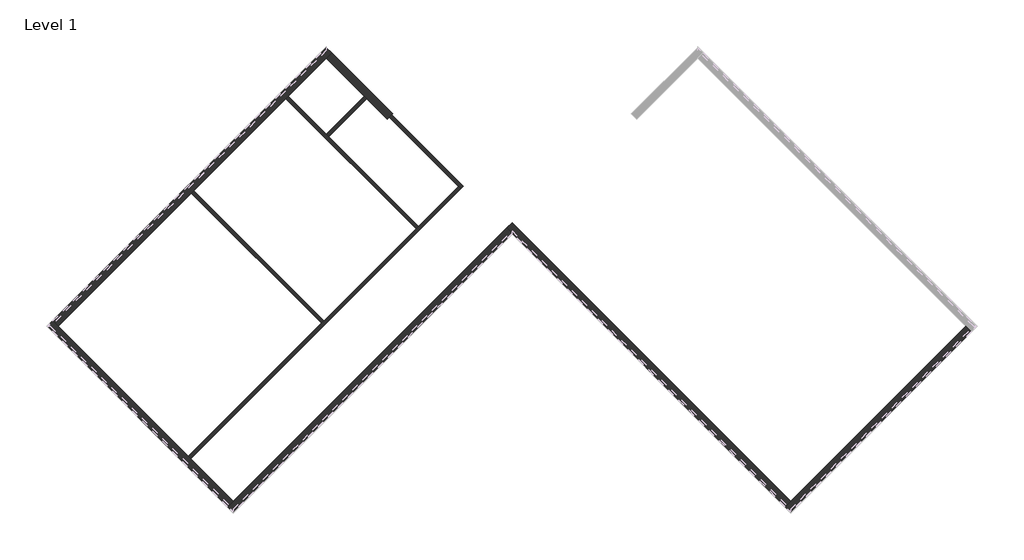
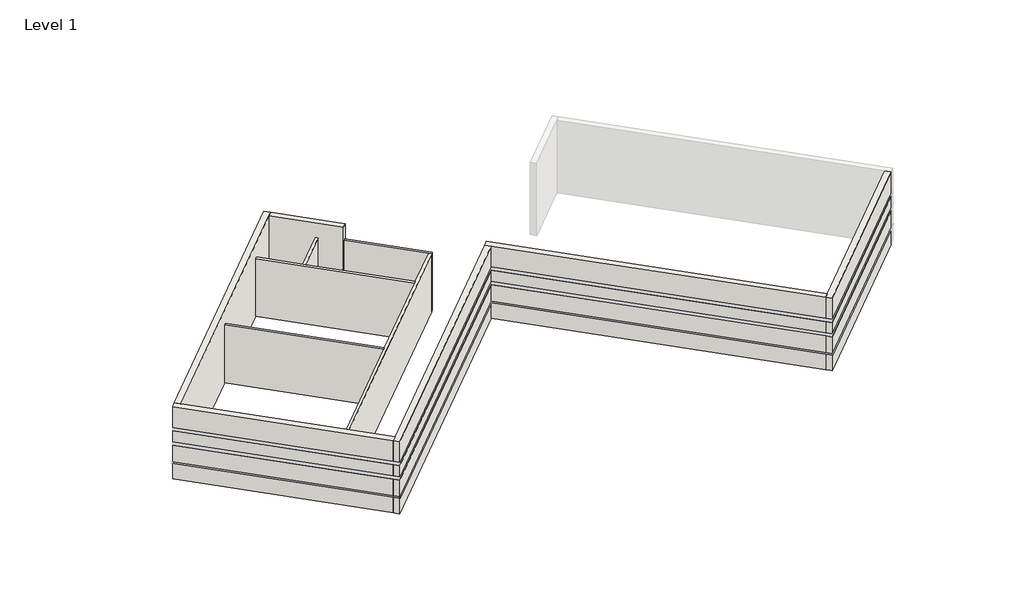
# One storey, part 1 of 2: 11 walls.
"""IFC4 building model written with IfcOpenShell, lengths in millimetres."""

import ifcopenshell
import ifcopenshell.guid

model = None  # the IFC model being written
_history = None  # IfcOwnerHistory: only IFC2X3 demands one
_inside = {}  # id of a spatial element -> (the spatial element, [elements in it])
_under = {}  # id of a project, library or spatial element -> (it, [spatial elements below it])
_declared = {}  # id of a project -> (the project, [libraries it declares])
_typed = {}  # id of a type object -> (the type object, [elements of that type])
_made_of = {}  # id of a material, layer set ... -> (it, [elements and type objects made of it])


def new_model(schema):
    """Start an empty IFC model of exactly this schema.

    Asked for "IFC4X3", IfcOpenShell would pick the latest addendum, in which some entities
    have other attributes; the version numbers below select the first issue.
    IFC2X3 requires an IfcOwnerHistory on every rooted entity: one is made here for all.
    """
    global model, _history
    if schema == "IFC4X3":
        model = ifcopenshell.file(schema_version=(4, 3, 0, 0))
    else:
        model = ifcopenshell.file(schema=schema)
    _inside.clear()
    _under.clear()
    _declared.clear()
    _typed.clear()
    _made_of.clear()
    _history = None
    if model.schema == "IFC2X3":
        org = make("IfcOrganization", Name="unknown")
        user = make(
            "IfcPersonAndOrganization",
            ThePerson=make("IfcPerson", FamilyName="unknown"),
            TheOrganization=org,
        )
        app = make(
            "IfcApplication",
            ApplicationDeveloper=org,
            Version="unknown",
            ApplicationFullName="unknown",
            ApplicationIdentifier="unknown",
        )
        _history = make(
            "IfcOwnerHistory",
            OwningUser=user,
            OwningApplication=app,
            ChangeAction="ADDED",
            CreationDate=0,
        )
    return model


def make(cls, **values):
    """One entity of the class cls with the attributes given. An attribute that is None is left unset."""
    return model.create_entity(
        cls, **{name: value for name, value in values.items() if value is not None}
    )


def rooted(cls, **values):
    """An entity with a GlobalId (a new one), such as an element, a storey or a relation."""
    return make(cls, GlobalId=ifcopenshell.guid.new(), OwnerHistory=_history, **values)


def si_unit(unit_type, name, prefix=None):
    """IfcSIUnit, for example si_unit("LENGTHUNIT", "METRE", prefix="MILLI")."""
    return make("IfcSIUnit", UnitType=unit_type, Prefix=prefix, Name=name)


def assignment(units):
    """IfcUnitAssignment: the units of a project."""
    return None if units is None else make("IfcUnitAssignment", Units=units)


def point(xyz):
    """IfcCartesianPoint."""
    return None if xyz is None else make("IfcCartesianPoint", Coordinates=xyz)


def direction(xyz):
    """IfcDirection."""
    return None if xyz is None else make("IfcDirection", DirectionRatios=xyz)


def frame(location, z_axis=None, x_axis=None):
    """IfcAxis2Placement3D, a coordinate frame: its origin and axes. An axis left out is left unset."""
    return make(
        "IfcAxis2Placement3D",
        Location=point(location),
        Axis=direction(z_axis),
        RefDirection=direction(x_axis),
    )


def origin():
    """The frame at (0, 0, 0) with its axes left unset."""
    return frame((0.0, 0.0, 0.0))


def origin_with_axes():
    """The frame at (0, 0, 0) with the z axis (0, 0, 1) and the x axis (1, 0, 0) written out."""
    return frame((0.0, 0.0, 0.0), z_axis=(0.0, 0.0, 1.0), x_axis=(1.0, 0.0, 0.0))


def place(relative_to, where):
    """IfcLocalPlacement: puts the frame where relative to a parent placement (None: the world)."""
    return make(
        "IfcLocalPlacement", PlacementRelTo=relative_to, RelativePlacement=where
    )


def context(
    kind, dimensions, precision=None, world=None, true_north=None, identifier=None
):
    """IfcGeometricRepresentationContext, for example the 3D "Model" context."""
    return make(
        "IfcGeometricRepresentationContext",
        ContextIdentifier=identifier,
        ContextType=kind,
        CoordinateSpaceDimension=dimensions,
        Precision=precision,
        WorldCoordinateSystem=world,
        TrueNorth=true_north,
    )


def project(units=None, contexts=None):
    """IfcProject with its units and contexts."""
    return rooted(
        "IfcProject",
        Name="project",
        RepresentationContexts=contexts,
        UnitsInContext=assignment(units),
    )


def spatial(cls, under=None, at=None, **own):
    """A site, building, storey or space (cls), placed at a placement, below another one or the project."""
    s = rooted(cls, ObjectPlacement=at, **own)
    if under is not None:
        _under.setdefault(under.id(), (under, []))[1].append(s)
    return s


def polyline(points):
    """IfcPolyline through the points."""
    return make("IfcPolyline", Points=[point(p) for p in points])


def circle_curve(where, radius):
    """IfcCircle in the frame where."""
    return make("IfcCircle", Position=where, Radius=radius)


def outline(outer, holes=None, kind="AREA"):
    """IfcArbitraryClosedProfileDef: a profile drawn as a closed curve; with holes, ...WithVoids."""
    if holes is None:
        return make("IfcArbitraryClosedProfileDef", ProfileType=kind, OuterCurve=outer)
    return make(
        "IfcArbitraryProfileDefWithVoids",
        ProfileType=kind,
        OuterCurve=outer,
        InnerCurves=holes,
    )


def extrude(swept, where, along, depth):
    """IfcExtrudedAreaSolid: the profile swept, set in the frame where, extruded along a direction by depth."""
    return make(
        "IfcExtrudedAreaSolid",
        SweptArea=swept,
        Position=where,
        ExtrudedDirection=direction(along),
        Depth=depth,
    )


def faces_of(points, faces, orient=None, outer=None):
    """IfcFace entities. A face is a list of loops; a loop is a list of indices into points, from 0.

    orient and outer hold one flag for each loop. By default every Orientation is true, the
    first loop of a face is its IfcFaceOuterBound and the others are IfcFaceBound.
    """
    made = []
    for i, loops in enumerate(faces):
        bounds = []
        for j, loop in enumerate(loops):
            is_outer = j == 0 if outer is None else outer[i][j]
            bounds.append(
                make(
                    "IfcFaceOuterBound" if is_outer else "IfcFaceBound",
                    Bound=make("IfcPolyLoop", Polygon=[points[k] for k in loop]),
                    Orientation=True if orient is None else orient[i][j],
                )
            )
        made.append(make("IfcFace", Bounds=bounds))
    return made


def faceted_brep(points, faces, orient=None, outer=None, voids=None):
    """IfcFacetedBrep: a solid bounded by flat faces; with voids (closed shells), ...WithVoids."""
    shared = [point(p) for p in points]
    hull = make("IfcClosedShell", CfsFaces=faces_of(shared, faces, orient, outer))
    if voids is None:
        return make("IfcFacetedBrep", Outer=hull)
    return make(
        "IfcFacetedBrepWithVoids",
        Outer=hull,
        Voids=[
            make(cls, CfsFaces=faces_of(shared, fs, o, b)) for cls, fs, o, b in voids
        ],
    )


def shape(context_of_items, identifier, shape_type, items):
    """IfcShapeRepresentation: the items that make up one representation, for example the "Body"."""
    return make(
        "IfcShapeRepresentation",
        ContextOfItems=context_of_items,
        RepresentationIdentifier=identifier,
        RepresentationType=shape_type,
        Items=items,
    )


def made_of(thing, what):
    """Note that an element or type object is made of a material, layer set ...; save() writes the relation."""
    if what is not None:
        _made_of.setdefault(what.id(), (what, []))[1].append(thing)
    return thing


def element(
    cls,
    number,
    at=None,
    inside=None,
    cuts=None,
    type_object=None,
    material=None,
    context=None,
    identifier="Body",
    shape_type=None,
    held_by="IfcProductDefinitionShape",
    body=None,
    shapes=None,
    **own,
):
    """One element of the class cls, such as IfcWall. Its Tag is "e" and its number.

    at: its placement. inside: the storey or other place that contains it. cuts: it is an
    opening in that element (IfcRelVoidsElement). A single representation is given by context,
    identifier, shape_type and body (its items); several are given by shapes. held_by: the class
    of the entity that holds the representations. save() writes the other relations.
    """
    e = rooted(cls, Tag="e%d" % number, ObjectPlacement=at, **own)
    if body is not None:
        shapes = [shape(context, identifier, shape_type, body)]
    if shapes is not None:
        e.Representation = make(held_by, Representations=shapes)
    if inside is not None:
        _inside.setdefault(inside.id(), (inside, []))[1].append(e)
    if cuts is not None:
        rooted(
            "IfcRelVoidsElement", RelatingBuildingElement=cuts, RelatedOpeningElement=e
        )
    if type_object is not None:
        _typed.setdefault(type_object.id(), (type_object, []))[1].append(e)
    return made_of(e, material)


def aggregate(whole, parts):
    """IfcRelAggregates: a whole, such as a stair, and the parts it consists of."""
    return rooted("IfcRelAggregates", RelatingObject=whole, RelatedObjects=parts)


def save(model, path):
    """Write the relations noted so far, then the file.

    IfcRelAggregates (storeys below a building ...), IfcRelContainedInSpatialStructure (elements
    in a storey), IfcRelDefinesByType, IfcRelAssociatesMaterial and IfcRelDeclares: one each for
    every whole, place, type object, material and project.
    """
    for whole, parts in _under.values():
        aggregate(whole, parts)
    for where, things in _inside.values():
        rooted(
            "IfcRelContainedInSpatialStructure",
            RelatedElements=things,
            RelatingStructure=where,
        )
    for kind, things in _typed.values():
        rooted("IfcRelDefinesByType", RelatedObjects=things, RelatingType=kind)
    for what, things in _made_of.values():
        rooted("IfcRelAssociatesMaterial", RelatedObjects=things, RelatingMaterial=what)
    for by, libraries in _declared.values():
        rooted("IfcRelDeclares", RelatingContext=by, RelatedDefinitions=libraries)
    model.write(path)


def plane_surface(at):
    """IfcPlane: the flat surface through the origin of the frame at, square to its z axis."""
    return make("IfcPlane", Position=at)


def cylinder_surface(at, radius):
    """IfcCylindricalSurface: all points at the distance radius from the z axis of the frame at."""
    return make("IfcCylindricalSurface", Position=at, Radius=radius)


def revolved_surface(curve, axis_point, axis_direction):
    """IfcSurfaceOfRevolution: the curve turned about the line through axis_point along axis_direction."""
    return make(
        "IfcSurfaceOfRevolution",
        SweptCurve=make("IfcArbitraryOpenProfileDef", ProfileType="CURVE", Curve=curve),
        AxisPosition=make("IfcAxis1Placement", Location=point(axis_point), Axis=direction(axis_direction)),
    )


def advanced_brep(points, edges, surfaces, faces):
    """IfcAdvancedBrep: a solid bounded by faces that lie on surfaces and meet in shared edges.

    An edge is (start, end): straight between two places in points (the first is 0);
    or (start, end, curve); or (start, end, curve, False) where it runs against its curve.
    A face is (place in surfaces, loops), or (place, loops, False) where it looks against
    its surface's normal. A loop lists edges by number (the first is 1), with a minus sign
    where the edge is run from its end to its start. The first loop is the outer one.
    """
    corners = [point(p) for p in points]
    vertices = [make("IfcVertexPoint", VertexGeometry=c) for c in corners]
    made = []
    for start, end, *more in edges:
        made.append(
            make(
                "IfcEdgeCurve",
                EdgeStart=vertices[start],
                EdgeEnd=vertices[end],
                EdgeGeometry=more[0] if more else make("IfcPolyline", Points=[corners[start], corners[end]]),
                SameSense=more[1] if len(more) > 1 else True,
            )
        )
    hull = []
    for where, loops, *sense in faces:
        bounds = []
        for j, loop in enumerate(loops):
            ring = [make("IfcOrientedEdge", EdgeElement=made[abs(k) - 1], Orientation=k > 0) for k in loop]
            bounds.append(
                make(
                    "IfcFaceOuterBound" if j == 0 else "IfcFaceBound",
                    Bound=make("IfcEdgeLoop", EdgeList=ring),
                    Orientation=True,
                )
            )
        hull.append(make("IfcAdvancedFace", Bounds=bounds, FaceSurface=surfaces[where], SameSense=sense[0] if sense else True))
    return make("IfcAdvancedBrep", Outer=make("IfcClosedShell", CfsFaces=hull))


model = new_model("IFC4")

# Units and contexts
model_context = context("Model", 3, world=origin())
ifc_project = project(units=[si_unit("LENGTHUNIT", "METRE", prefix="MILLI")], contexts=[model_context])

# Site, building, storey
site = spatial("IfcSite", under=ifc_project)
building = spatial("IfcBuilding", under=site)
storey = spatial("IfcBuildingStorey", under=building, Name="Level 1", Elevation=0.0)

# Walls
placement = place(None, origin())
element("IfcWall", 1, ObjectType="Exterior - Split Face and CMU on Mtl. Stud", at=placement, inside=storey, context=model_context, shape_type="Brep", body=[
    faceted_brep([(18186.1821115, -1357.9895101, 0.0), (10063.54045, -9480.6311716, 0.0), (9814.3383427, -9729.833279, 0.0), (9814.3383427, -9729.833279, 1016.0), (9879.4451996, -9664.7264221, 1016.0), (9879.4451996, -9664.7264221, 1085.85), (9814.3383427, -9729.833279, 1085.85), (9814.3383427, -9729.833279, 2133.6), (9879.4451996, -9664.7264221, 2133.6), (9879.4451996, -9664.7264221, 2336.8), (9814.3383427, -9729.833279, 2336.8), (9814.3383427, -9729.833279, 3048.0), (9879.4451996, -9664.7264221, 3048.0), (9879.4451996, -9664.7264221, 3251.2), (9814.3383427, -9729.833279, 3251.2), (9814.3383427, -9729.833279, 4572.0), (10063.54045, -9480.6311716, 4572.0), (18186.1821115, -1357.9895101, 4572.0), (18435.3842189, -1607.1916175, 4572.0), (10063.54045, -9979.0353863, 4572.0), (10063.54045, -9979.0353863, 3251.2), (18435.3842189, -1607.1916175, 3251.2), (10063.54045, -9979.0353863, 0.0), (18435.3842189, -1607.1916175, 0.0), (18435.3842189, -1607.1916175, 1016.0), (10063.54045, -9979.0353863, 1016.0), (10063.54045, -9979.0353863, 1085.85), (18435.3842189, -1607.1916175, 1085.85), (18435.3842189, -1607.1916175, 2133.6), (10063.54045, -9979.0353863, 2133.6), (10063.54045, -9979.0353863, 2336.8), (18435.3842189, -1607.1916175, 2336.8), (18435.3842189, -1607.1916175, 3048.0), (10063.54045, -9979.0353863, 3048.0), (9998.4335932, -9913.9285294, 0.0), (18370.277362, -1542.0847606, 3251.2), (18370.277362, -1542.0847606, 3048.0), (18370.277362, -1542.0847606, 2336.8), (18370.277362, -1542.0847606, 2133.6), (18370.277362, -1542.0847606, 1085.85), (18370.277362, -1542.0847606, 1016.0), (18370.277362, -1542.0847606, 0.0), (10063.54045, -9848.8216726, 1085.85), (10063.54045, -9848.8216726, 1016.0), (10063.54045, -9848.8216726, 2133.6), (10063.54045, -9848.8216726, 2336.8), (10063.54045, -9848.8216726, 3048.0), (10063.54045, -9848.8216726, 3251.2)], [[[0, 1, 2, 3, 4, 5, 6, 7, 8, 9, 10, 11, 12, 13, 14, 15, 16, 17]], [[18, 19, 20, 21]], [[22, 23, 24, 25]], [[26, 27, 28, 29]], [[30, 31, 32, 33]], [[17, 16, 15, 19, 18]], [[19, 15, 14, 20]], [[2, 34, 22, 25, 3]], [[6, 26, 29, 7]], [[10, 30, 33, 11]], [[0, 17, 18, 21, 35, 36, 32, 31, 37, 38, 28, 27, 39, 40, 24, 23, 41]], [[2, 1, 0, 41, 34]], [[41, 23, 22, 34]], [[5, 42, 39, 27, 26, 6]], [[40, 43, 4, 3, 25, 24]], [[42, 43, 40, 39]], [[43, 42, 5, 4]], [[38, 44, 8, 7, 29, 28]], [[9, 45, 37, 31, 30, 10]], [[45, 44, 38, 37]], [[44, 45, 9, 8]], [[36, 46, 12, 11, 33, 32]], [[13, 47, 35, 21, 20, 14]], [[47, 46, 36, 35]], [[46, 47, 13, 12]]]),
])
element("IfcWall", 2, ObjectType="Exterior - Split Face and CMU on Mtl. Stud", at=placement, inside=storey, context=model_context, shape_type="Brep", body=[
    faceted_brep([(10063.54045, -9480.6311716, 0.0), (-2868.0283643, 3450.9376427, 0.0), (-2868.0283643, 3450.9376427, 4572.0), (10063.54045, -9480.6311716, 4572.0), (9814.3383427, -9729.833279, 4572.0), (-2868.0283643, 2952.533428, 4572.0), (-3117.2304717, 3201.7355354, 4572.0), (-3117.2304717, 3201.7355354, 0.0), (-2868.0283643, 2952.533428, 0.0), (9814.3383427, -9729.833279, 0.0), (9814.3383427, -9729.833279, 1016.0), (-2868.0283643, 2952.533428, 1016.0), (-2933.1352212, 3017.6402849, 1016.0), (-2933.1352212, 3017.6402849, 1085.85), (-2868.0283643, 2952.533428, 1085.85), (9814.3383427, -9729.833279, 1085.85), (9814.3383427, -9729.833279, 2133.6), (-2868.0283643, 2952.533428, 2133.6), (-2933.1352212, 3017.6402849, 2133.6), (-2933.1352212, 3017.6402849, 2336.8), (-2868.0283643, 2952.533428, 2336.8), (9814.3383427, -9729.833279, 2336.8), (9814.3383427, -9729.833279, 3048.0), (-2868.0283643, 2952.533428, 3048.0), (-2933.1352212, 3017.6402849, 3048.0), (-2933.1352212, 3017.6402849, 3251.2), (-2868.0283643, 2952.533428, 3251.2), (9814.3383427, -9729.833279, 3251.2), (-3052.1236148, 3266.8423923, 0.0), (9879.4451996, -9664.7264221, 3251.2), (9879.4451996, -9664.7264221, 3048.0), (9879.4451996, -9664.7264221, 2336.8), (9879.4451996, -9664.7264221, 2133.6), (9879.4451996, -9664.7264221, 1085.85), (9879.4451996, -9664.7264221, 1016.0), (9879.4451996, -9664.7264221, 0.0), (-2868.0283643, 3082.7471418, 1085.85), (-2868.0283643, 3082.7471418, 1016.0), (-2868.0283643, 3082.7471418, 2133.6), (-2868.0283643, 3082.7471418, 2336.8), (-2868.0283643, 3082.7471418, 3048.0), (-2868.0283643, 3082.7471418, 3251.2)], [[[0, 1, 2, 3]], [[4, 5, 6, 7, 8, 9, 10, 11, 12, 13, 14, 15, 16, 17, 18, 19, 20, 21, 22, 23, 24, 25, 26, 27]], [[3, 2, 6, 5, 4]], [[2, 1, 28, 7, 6]], [[0, 3, 4, 27, 29, 30, 22, 21, 31, 32, 16, 15, 33, 34, 10, 9, 35]], [[1, 0, 35, 28]], [[35, 9, 8, 7, 28]], [[13, 36, 33, 15, 14]], [[34, 37, 12, 11, 10]], [[36, 37, 34, 33]], [[37, 36, 13, 12]], [[32, 38, 18, 17, 16]], [[19, 39, 31, 21, 20]], [[39, 38, 32, 31]], [[38, 39, 19, 18]], [[30, 40, 24, 23, 22]], [[25, 41, 29, 27, 26]], [[41, 40, 30, 29]], [[40, 41, 25, 24]]]),
])
element("IfcWall", 3, ObjectType="Exterior - Split Face and CMU on Mtl. Stud", at=placement, inside=storey, context=model_context, shape_type="Brep", body=[
    faceted_brep([(-3117.2304717, 3201.7355354, 0.0), (-15799.5971786, -9480.6311716, 0.0), (-16048.799286, -9729.833279, 0.0), (-16048.799286, -9729.833279, 1016.0), (-15983.6924291, -9664.7264221, 1016.0), (-15983.6924291, -9664.7264221, 1085.85), (-16048.799286, -9729.833279, 1085.85), (-16048.799286, -9729.833279, 2133.6), (-15983.6924291, -9664.7264221, 2133.6), (-15983.6924291, -9664.7264221, 2336.8), (-16048.799286, -9729.833279, 2336.8), (-16048.799286, -9729.833279, 3048.0), (-15983.6924291, -9664.7264221, 3048.0), (-15983.6924291, -9664.7264221, 3251.2), (-16048.799286, -9729.833279, 3251.2), (-16048.799286, -9729.833279, 4572.0), (-15799.5971786, -9480.6311716, 4572.0), (-3117.2304717, 3201.7355354, 4572.0), (-2868.0283643, 2952.533428, 4572.0), (-15799.5971786, -9979.0353863, 4572.0), (-15799.5971786, -9979.0353863, 3251.2), (-2868.0283643, 2952.533428, 3251.2), (-15799.5971786, -9979.0353863, 0.0), (-2868.0283643, 2952.533428, 0.0), (-2868.0283643, 2952.533428, 1016.0), (-15799.5971786, -9979.0353863, 1016.0), (-15799.5971786, -9979.0353863, 1085.85), (-2868.0283643, 2952.533428, 1085.85), (-2868.0283643, 2952.533428, 2133.6), (-15799.5971786, -9979.0353863, 2133.6), (-15799.5971786, -9979.0353863, 2336.8), (-2868.0283643, 2952.533428, 2336.8), (-2868.0283643, 2952.533428, 3048.0), (-15799.5971786, -9979.0353863, 3048.0), (-15864.7040355, -9913.9285294, 0.0), (-2933.1352212, 3017.6402849, 3251.2), (-2933.1352212, 3017.6402849, 3048.0), (-2933.1352212, 3017.6402849, 2336.8), (-2933.1352212, 3017.6402849, 2133.6), (-2933.1352212, 3017.6402849, 1085.85), (-2933.1352212, 3017.6402849, 1016.0), (-2933.1352212, 3017.6402849, 0.0), (-15799.5971786, -9848.8216726, 1085.85), (-15799.5971786, -9848.8216726, 1016.0), (-15799.5971786, -9848.8216726, 2133.6), (-15799.5971786, -9848.8216726, 2336.8), (-15799.5971786, -9848.8216726, 3048.0), (-15799.5971786, -9848.8216726, 3251.2)], [[[0, 1, 2, 3, 4, 5, 6, 7, 8, 9, 10, 11, 12, 13, 14, 15, 16, 17]], [[18, 19, 20, 21]], [[22, 23, 24, 25]], [[26, 27, 28, 29]], [[30, 31, 32, 33]], [[17, 16, 15, 19, 18]], [[19, 15, 14, 20]], [[2, 34, 22, 25, 3]], [[6, 26, 29, 7]], [[10, 30, 33, 11]], [[0, 17, 18, 21, 35, 36, 32, 31, 37, 38, 28, 27, 39, 40, 24, 23, 41]], [[2, 1, 0, 41, 34]], [[41, 23, 22, 34]], [[5, 42, 39, 27, 26, 6]], [[40, 43, 4, 3, 25, 24]], [[42, 43, 40, 39]], [[43, 42, 5, 4]], [[38, 44, 8, 7, 29, 28]], [[9, 45, 37, 31, 30, 10]], [[45, 44, 38, 37]], [[44, 45, 9, 8]], [[36, 46, 12, 11, 33, 32]], [[13, 47, 35, 21, 20, 14]], [[47, 46, 36, 35]], [[46, 47, 13, 12]]]),
])
element("IfcWall", 4, ObjectType="Exterior - Split Face and CMU on Mtl. Stud", at=placement, inside=storey, context=model_context, shape_type="Brep", body=[
    faceted_brep([(-15799.5971786, -9480.6311716, 0.0), (-17775.2535253, -7504.974825, 0.0), (-17885.2616628, -7394.9666875, 0.0), (-23922.2388402, -1357.9895101, 0.0), (-24171.4409475, -1108.7874027, 0.0), (-24171.4409475, -1108.7874027, 1016.0), (-24106.3340906, -1173.8942596, 1016.0), (-24106.3340906, -1173.8942596, 1085.85), (-24171.4409475, -1108.7874027, 1085.85), (-24171.4409475, -1108.7874027, 2133.6), (-24106.3340906, -1173.8942596, 2133.6), (-24106.3340906, -1173.8942596, 2336.8), (-24171.4409475, -1108.7874027, 2336.8), (-24171.4409475, -1108.7874027, 3048.0), (-24106.3340906, -1173.8942596, 3048.0), (-24106.3340906, -1173.8942596, 3251.2), (-24171.4409475, -1108.7874027, 3251.2), (-24171.4409475, -1108.7874027, 4572.0), (-23922.2388402, -1357.9895101, 4572.0), (-15799.5971786, -9480.6311716, 4572.0), (-16048.799286, -9729.833279, 4572.0), (-24420.6430549, -1357.9895101, 4572.0), (-24420.6430549, -1357.9895101, 3251.2), (-16048.799286, -9729.833279, 3251.2), (-24420.6430549, -1357.9895101, 0.0), (-16048.799286, -9729.833279, 0.0), (-16048.799286, -9729.833279, 1016.0), (-24420.6430549, -1357.9895101, 1016.0), (-24420.6430549, -1357.9895101, 1085.85), (-16048.799286, -9729.833279, 1085.85), (-16048.799286, -9729.833279, 2133.6), (-24420.6430549, -1357.9895101, 2133.6), (-24420.6430549, -1357.9895101, 2336.8), (-16048.799286, -9729.833279, 2336.8), (-16048.799286, -9729.833279, 3048.0), (-24420.6430549, -1357.9895101, 3048.0), (-24355.536198, -1292.8826532, 0.0), (-15983.6924291, -9664.7264221, 3251.2), (-15983.6924291, -9664.7264221, 3048.0), (-15983.6924291, -9664.7264221, 2336.8), (-15983.6924291, -9664.7264221, 2133.6), (-15983.6924291, -9664.7264221, 1085.85), (-15983.6924291, -9664.7264221, 1016.0), (-15983.6924291, -9664.7264221, 0.0), (-24290.4293411, -1357.9895101, 1085.85), (-24290.4293411, -1357.9895101, 1016.0), (-24290.4293411, -1357.9895101, 2133.6), (-24290.4293411, -1357.9895101, 2336.8), (-24290.4293411, -1357.9895101, 3048.0), (-24290.4293411, -1357.9895101, 3251.2)], [[[0, 1, 2, 3, 4, 5, 6, 7, 8, 9, 10, 11, 12, 13, 14, 15, 16, 17, 18, 19]], [[20, 21, 22, 23]], [[24, 25, 26, 27]], [[28, 29, 30, 31]], [[32, 33, 34, 35]], [[19, 18, 17, 21, 20]], [[21, 17, 16, 22]], [[4, 36, 24, 27, 5]], [[8, 28, 31, 9]], [[12, 32, 35, 13]], [[0, 19, 20, 23, 37, 38, 34, 33, 39, 40, 30, 29, 41, 42, 26, 25, 43]], [[4, 3, 2, 1, 0, 43, 36]], [[43, 25, 24, 36]], [[7, 44, 41, 29, 28, 8]], [[42, 45, 6, 5, 27, 26]], [[44, 45, 42, 41]], [[45, 44, 7, 6]], [[40, 46, 10, 9, 31, 30]], [[11, 47, 39, 33, 32, 12]], [[47, 46, 40, 39]], [[46, 47, 11, 10]], [[38, 48, 14, 13, 35, 34]], [[15, 49, 37, 23, 22, 16]], [[49, 48, 38, 37]], [[48, 49, 15, 14]]]),
])
element("IfcWall", 5, ObjectType="Exterior - Split Face and CMU on Mtl. Stud", at=placement, inside=storey, context=model_context, shape_type="Brep", body=[
    faceted_brep([(-23922.2388402, -1357.9895101, 0.0), (-17743.7048466, 4820.5444835, 0.0), (-17633.6967091, 4930.552621, 0.0), (-13359.2125777, 9205.0367523, 0.0), (-13249.2044403, 9315.0448898, 0.0), (-11489.0742405, 11075.1750895, 0.0), (-11239.8721332, 11324.3771969, 0.0), (-11239.8721332, 11324.3771969, 1016.0), (-11304.9789901, 11259.27034, 1016.0), (-11304.9789901, 11259.27034, 1085.85), (-11239.8721332, 11324.3771969, 1085.85), (-11239.8721332, 11324.3771969, 2133.6), (-11304.9789901, 11259.27034, 2133.6), (-11304.9789901, 11259.27034, 2336.8), (-11239.8721332, 11324.3771969, 2336.8), (-11239.8721332, 11324.3771969, 3048.0), (-11304.9789901, 11259.27034, 3048.0), (-11304.9789901, 11259.27034, 3251.2), (-11239.8721332, 11324.3771969, 3251.2), (-11239.8721332, 11324.3771969, 4572.0), (-11489.0742405, 11075.1750895, 4572.0), (-23922.2388402, -1357.9895101, 4572.0), (-24171.4409475, -1108.7874027, 4572.0), (-11489.0742405, 11573.5793042, 4572.0), (-11489.0742405, 11573.5793042, 3251.2), (-24171.4409475, -1108.7874027, 3251.2), (-11489.0742405, 11573.5793042, 0.0), (-24171.4409475, -1108.7874027, 0.0), (-24171.4409475, -1108.7874027, 1016.0), (-11489.0742405, 11573.5793042, 1016.0), (-11489.0742405, 11573.5793042, 1085.85), (-24171.4409475, -1108.7874027, 1085.85), (-24171.4409475, -1108.7874027, 2133.6), (-11489.0742405, 11573.5793042, 2133.6), (-11489.0742405, 11573.5793042, 2336.8), (-24171.4409475, -1108.7874027, 2336.8), (-24171.4409475, -1108.7874027, 3048.0), (-11489.0742405, 11573.5793042, 3048.0), (-11423.9673837, 11508.4724474, 0.0), (-24106.3340906, -1173.8942596, 3251.2), (-24106.3340906, -1173.8942596, 3048.0), (-24106.3340906, -1173.8942596, 2336.8), (-24106.3340906, -1173.8942596, 2133.6), (-24106.3340906, -1173.8942596, 1085.85), (-24106.3340906, -1173.8942596, 1016.0), (-24106.3340906, -1173.8942596, 0.0), (-11489.0742405, 11443.3655905, 1085.85), (-11489.0742405, 11443.3655905, 1016.0), (-11489.0742405, 11443.3655905, 2133.6), (-11489.0742405, 11443.3655905, 2336.8), (-11489.0742405, 11443.3655905, 3048.0), (-11489.0742405, 11443.3655905, 3251.2)], [[[0, 1, 2, 3, 4, 5, 6, 7, 8, 9, 10, 11, 12, 13, 14, 15, 16, 17, 18, 19, 20, 21]], [[22, 23, 24, 25]], [[26, 27, 28, 29]], [[30, 31, 32, 33]], [[34, 35, 36, 37]], [[21, 20, 19, 23, 22]], [[23, 19, 18, 24]], [[6, 38, 26, 29, 7]], [[10, 30, 33, 11]], [[14, 34, 37, 15]], [[0, 21, 22, 25, 39, 40, 36, 35, 41, 42, 32, 31, 43, 44, 28, 27, 45]], [[6, 5, 4, 3, 2, 1, 0, 45, 38]], [[45, 27, 26, 38]], [[9, 46, 43, 31, 30, 10]], [[44, 47, 8, 7, 29, 28]], [[46, 47, 44, 43]], [[47, 46, 9, 8]], [[42, 48, 12, 11, 33, 32]], [[13, 49, 41, 35, 34, 14]], [[49, 48, 42, 41]], [[48, 49, 13, 12]], [[40, 50, 16, 15, 37, 36]], [[17, 51, 39, 25, 24, 18]], [[51, 50, 40, 39]], [[50, 51, 17, 16]]]),
])
element("IfcWall", 6, ObjectType="Exterior - Split Face and CMU on Mtl. Stud", at=placement, inside=storey, context=model_context, shape_type="AdvancedBrep", body=[
    advanced_brep(
    [(-11489.0742405, 11075.1750895, 0.0), (-9728.9440408, 9315.0448898, 0.0), (-9618.9359033, 9205.0367523, 0.0), (-8658.0122729, 8244.1131219, 0.0), (-8658.0122729, 8244.1131219, 4572.0), (-11489.0742405, 11075.1750895, 4572.0), (-11239.8721332, 11324.3771969, 4572.0), (-8662.486224, 8746.9912878, 4572.0), (-8413.2817722, 8497.7868359, 4572.0), (-8413.2817722, 8497.7868359, 0.0), (-8662.486224, 8746.9912878, 0.0), (-11239.8721332, 11324.3771969, 0.0), (-11239.8721332, 11324.3771969, 1016.0), (-8662.486224, 8746.9912878, 1016.0), (-8597.3787742, 8681.8838379, 1016.0), (-8597.3787742, 8681.8838379, 1085.85), (-8662.486224, 8746.9912878, 1085.85), (-11239.8721332, 11324.3771969, 1085.85), (-11239.8721332, 11324.3771969, 2133.6), (-8662.486224, 8746.9912878, 2133.6), (-8597.3787742, 8681.8838379, 2133.6), (-8597.3787742, 8681.8838379, 2336.8), (-8662.486224, 8746.9912878, 2336.8), (-11239.8721332, 11324.3771969, 2336.8), (-11239.8721332, 11324.3771969, 3048.0), (-8662.486224, 8746.9912878, 3048.0), (-8597.3787742, 8681.8838379, 3048.0), (-8597.3787742, 8681.8838379, 3251.2), (-8662.486224, 8746.9912878, 3251.2), (-11239.8721332, 11324.3771969, 3251.2), (-8478.2967797, 8432.5881297, 0.0), (-11304.9789901, 11259.27034, 3251.2), (-11304.9789901, 11259.27034, 3048.0), (-11304.9789901, 11259.27034, 2336.8), (-11304.9789901, 11259.27034, 2133.6), (-11304.9789901, 11259.27034, 1085.85), (-11304.9789901, 11259.27034, 1016.0), (-11304.9789901, 11259.27034, 0.0), (-8662.3967205, 8616.6880705, 1085.85), (-8662.3967205, 8616.6880705, 1016.0), (-8662.3967205, 8616.6880705, 2336.8), (-8662.3967205, 8616.6880705, 2133.6), (-8662.3967205, 8616.6880705, 3251.2), (-8662.3967205, 8616.6880705, 3048.0)],
    [
        (0, 1),
        (1, 2),
        (2, 3),
        (3, 4),
        (4, 5),
        (5, 0),
        (6, 7),
        (7, 8),
        (8, 9),
        (9, 10),
        (10, 11),
        (11, 12),
        (12, 13),
        (13, 14),
        (14, 15),
        (15, 16),
        (16, 17),
        (17, 18),
        (18, 19),
        (19, 20),
        (20, 21),
        (21, 22),
        (22, 23),
        (23, 24),
        (24, 25),
        (25, 26),
        (26, 27),
        (27, 28),
        (28, 29),
        (29, 6),
        (4, 8, circle_curve(frame((-2868.0283643, 2903.1420194, 4572.0), z_axis=(0.0, 0.0, -1.0), x_axis=(1.0, 0.0, 0.0)), 7877.175)),
        (6, 5),
        (3, 30, circle_curve(frame((-2868.0283643, 2903.1420194, 0.0), z_axis=(0.0, 0.0, -1.0), x_axis=(1.0, 0.0, 0.0)), 7877.175)),
        (30, 9, circle_curve(frame((-2868.0283643, 2903.1420194, 0.0), z_axis=(0.0, 0.0, -1.0), x_axis=(1.0, 0.0, 0.0)), 7877.175)),
        (29, 31),
        (31, 32),
        (32, 24),
        (23, 33),
        (33, 34),
        (34, 18),
        (17, 35),
        (35, 36),
        (36, 12),
        (11, 37),
        (37, 0),
        (37, 30),
        (38, 39),
        (39, 36),
        (35, 38),
        (15, 38, circle_curve(frame((-2868.0283643, 2903.1420194, 1085.85), z_axis=(0.0, 0.0, 1.0), x_axis=(-0.7040995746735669, 0.7101012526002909, 0.0)), 8137.525)),
        (39, 14, circle_curve(frame((-2868.0283643, 2903.1420194, 1016.0), z_axis=(0.0, 0.0, -1.0), x_axis=(-0.7040995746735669, 0.7101012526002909, 0.0)), 8137.525)),
        (40, 41),
        (41, 34),
        (33, 40),
        (41, 20, circle_curve(frame((-2868.0283643, 2903.1420194, 2133.6), z_axis=(0.0, 0.0, -1.0), x_axis=(-0.7120553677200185, 0.70212331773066, 0.0)), 8137.525)),
        (40, 21, circle_curve(frame((-2868.0283643, 2903.1420194, 2336.8), z_axis=(0.0, 0.0, -1.0), x_axis=(-0.7120553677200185, 0.70212331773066, 0.0)), 8137.525)),
        (42, 43),
        (43, 32),
        (31, 42),
        (43, 26, circle_curve(frame((-2868.0283643, 2903.1420194, 3048.0), z_axis=(0.0, 0.0, -1.0), x_axis=(-0.7120553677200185, 0.70212331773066, 0.0)), 8137.525)),
        (42, 27, circle_curve(frame((-2868.0283643, 2903.1420194, 3251.2), z_axis=(0.0, 0.0, -1.0), x_axis=(-0.7120553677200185, 0.70212331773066, 0.0)), 8137.525)),
    ],
    [
        plane_surface(frame((-11738.2763479, 11324.3771969, 0.0), z_axis=(-0.7071067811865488, -0.7071067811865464, 0.0), x_axis=(0.7071067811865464, -0.7071067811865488, 0.0))),
        plane_surface(frame((-11489.0742405, 11573.5793042, 0.0), z_axis=(0.7071067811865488, 0.7071067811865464, 0.0), x_axis=(-0.7071067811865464, 0.7071067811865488, 0.0))),
        plane_surface(frame((-8786.2632499, 8372.3640989, 4572.0), z_axis=(0.0, 0.0, 1.0), x_axis=(0.7071067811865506, 0.7071067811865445, 0.0))),
        revolved_surface(polyline([(5009.146635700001, 2903.1420194, 0.0), (5009.146635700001, 2903.1420194, 4572.0)]), (-2868.0283643, 2903.1420194, 0.0), (0.0, 0.0, -1.0)),
        plane_surface(frame((-24171.4409475, -1607.1916175, 0.0), z_axis=(-0.7071067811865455, 0.7071067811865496, 0.0), x_axis=(0.7071067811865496, 0.7071067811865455, 0.0))),
        plane_surface(frame((-11613.6752942, 11199.7761432, 0.0), z_axis=(0.0, 0.0, -1.0000000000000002), x_axis=(0.7071067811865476, 0.7071067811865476, 0.0))),
        plane_surface(frame((0.0, 0.0, 0.0), z_axis=(0.0, 0.0, -1.0), x_axis=(1.0, 0.0, 0.0))),
        plane_surface(frame((-11489.0742405, 11443.3655905, 1016.0), z_axis=(0.7071067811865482, 0.7071067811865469, 0.0), x_axis=(0.7071067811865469, -0.7071067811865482, 0.0))),
        plane_surface(frame((-2868.0283643, 2903.1420194, 1085.85), z_axis=(0.0, 0.0, -1.0), x_axis=(-0.7040995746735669, 0.7101012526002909, 0.0))),
        plane_surface(frame((-2868.0283643, 2903.1420194, 1016.0), z_axis=(0.0, 0.0, 1.0), x_axis=(-0.7040995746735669, 0.7101012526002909, 0.0))),
        cylinder_surface(frame((-2868.0283643, 2903.1420194, 1016.0), z_axis=(0.0, 0.0, -1.0), x_axis=(-0.7040995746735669, 0.7101012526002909, 0.0)), 8137.525),
        plane_surface(frame((-11489.0742405, 11443.3655905, 2133.6), z_axis=(0.7071067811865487, 0.7071067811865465, 0.0), x_axis=(0.7071067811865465, -0.7071067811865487, 0.0))),
        plane_surface(frame((-2868.0283643, 2903.1420194, 2133.6), z_axis=(0.0, 0.0, 1.0), x_axis=(-0.7120553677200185, 0.70212331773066, 0.0))),
        cylinder_surface(frame((-2868.0283643, 2903.1420194, 2133.6), z_axis=(0.0, 0.0, -1.0), x_axis=(-0.7120553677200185, 0.70212331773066, 0.0)), 8137.525),
        plane_surface(frame((-2868.0283643, 2903.1420194, 2336.8), z_axis=(0.0, 0.0, -1.0), x_axis=(-0.7120553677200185, 0.70212331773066, 0.0))),
        plane_surface(frame((-11489.0742405, 11443.3655905, 3048.0), z_axis=(0.7071067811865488, 0.7071067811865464, 0.0), x_axis=(0.7071067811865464, -0.7071067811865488, 0.0))),
        plane_surface(frame((-2868.0283643, 2903.1420194, 3048.0), z_axis=(0.0, 0.0, 1.0), x_axis=(-0.7120553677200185, 0.70212331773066, 0.0))),
        cylinder_surface(frame((-2868.0283643, 2903.1420194, 3048.0), z_axis=(0.0, 0.0, -1.0), x_axis=(-0.7120553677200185, 0.70212331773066, 0.0)), 8137.525),
        plane_surface(frame((-2868.0283643, 2903.1420194, 3251.2), z_axis=(0.0, 0.0, -1.0), x_axis=(-0.7120553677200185, 0.70212331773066, 0.0))),
    ],
    [
        (0, [[1, 2, 3, 4, 5, 6]]),
        (1, [[7, 8, 9, 10, 11, 12, 13, 14, 15, 16, 17, 18, 19, 20, 21, 22, 23, 24, 25, 26, 27, 28, 29, 30]]),
        (2, [[-5, 31, -8, -7, 32]]),
        (3, [[-4, 33, 34, -9, -31]]),
        (4, [[-6, -32, -30, 35, 36, 37, -24, 38, 39, 40, -18, 41, 42, 43, -12, 44, 45]]),
        (5, [[-3, -2, -1, -45, 46, -33]]),
        (6, [[-44, -11, -10, -34, -46]]),
        (7, [[47, 48, -42, 49]]),
        (8, [[50, -49, -41, -17, -16]]),
        (9, [[-48, 51, -14, -13, -43]]),
        (10, [[-47, -50, -15, -51]]),
        (11, [[52, 53, -39, 54]]),
        (12, [[-53, 55, -20, -19, -40]]),
        (13, [[-52, 56, -21, -55]]),
        (14, [[-56, -54, -38, -23, -22]]),
        (15, [[57, 58, -36, 59]]),
        (16, [[-58, 60, -26, -25, -37]]),
        (17, [[-57, 61, -27, -60]]),
        (18, [[-61, -59, -35, -29, -28]]),
    ],
),
])
element("IfcWall", 7, ObjectType="Interior - 6 1/8\" Partition (2-hr)", at=placement, inside=storey, context=model_context, shape_type="Brep", body=[
    faceted_brep([(-17775.2535253, -7504.974825, 0.0), (-5238.5804157, 5031.6982846, 0.0), (-5238.5804157, 5031.6982846, 3657.6), (-17775.2535253, -7504.974825, 3657.6), (-17885.2616628, -7394.9666875, 0.0), (-17885.2616628, -7394.9666875, 3657.6), (-11706.7276692, -1216.4326939, 3657.6), (-11596.7195317, -1106.4245564, 3657.6), (-7322.2354004, 3168.0595749, 3657.6), (-7212.2272629, 3278.0677124, 3657.6), (-5348.5885532, 5141.7064221, 3657.6), (-5348.5885532, 5141.7064221, 0.0), (-7212.2272629, 3278.0677124, 0.0), (-7322.2354004, 3168.0595749, 0.0), (-11596.7195317, -1106.4245564, 0.0), (-11706.7276692, -1216.4326939, 0.0)], [[[0, 1, 2, 3]], [[4, 5, 6, 7, 8, 9, 10, 11, 12, 13, 14, 15]], [[1, 0, 4, 15, 14, 13, 12, 11]], [[3, 2, 10, 9, 8, 7, 6, 5]], [[0, 3, 5, 4]], [[2, 1, 11, 10]]]),
])
element("IfcWall", 8, ObjectType="Interior - 6 1/8\" Partition (2-hr)", at=placement, inside=storey, context=model_context, shape_type="Brep", body=[
    faceted_brep([(-7212.2272629, 3278.0677124, 0.0), (-11379.066103, 7444.9065526, 0.0), (-11489.0742405, 7554.9146901, 0.0), (-13249.2044403, 9315.0448898, 0.0), (-13249.2044403, 9315.0448898, 3657.6), (-11489.0742405, 7554.9146901, 3657.6), (-11379.066103, 7444.9065526, 3657.6), (-7212.2272629, 3278.0677124, 3657.6), (-7322.2354004, 3168.0595749, 0.0), (-7322.2354004, 3168.0595749, 3657.6), (-13359.2125777, 9205.0367523, 3657.6), (-13359.2125777, 9205.0367523, 0.0)], [[[0, 1, 2, 3, 4, 5, 6, 7]], [[8, 9, 10, 11]], [[3, 2, 1, 0, 8, 11]], [[7, 6, 5, 4, 10, 9]], [[4, 3, 11, 10]], [[0, 7, 9, 8]]]),
])
element("IfcWall", 9, ObjectType="Interior - 6 1/8\" Partition (2-hr)", at=placement, inside=storey, context=model_context, shape_type="AdvancedBrep", body=[
    advanced_brep(
    [(-5128.5722782, 5141.7064221, 0.0), (-8449.0111375, 8462.1452813, 0.0), (-8449.0111375, 8462.1452813, 3657.6), (-5128.5722782, 5141.7064221, 3657.6), (-8557.7157352, 8350.8336041, 0.0), (-5348.5885532, 5141.7064221, 0.0), (-5238.5804157, 5031.6982846, 0.0), (-5238.5804157, 5031.6982846, 3657.6), (-5348.5885532, 5141.7064221, 3657.6), (-8557.7157352, 8350.8336041, 3657.6)],
    [
        (0, 1),
        (1, 2),
        (2, 3),
        (3, 0),
        (4, 5),
        (5, 6),
        (6, 7),
        (7, 8),
        (8, 9),
        (9, 4),
        (0, 6),
        (4, 1, circle_curve(frame((-2868.0283643, 2903.1420194, 0.0), z_axis=(0.0, 0.0, -1.0), x_axis=(1.0, 0.0, 0.0)), 7877.175)),
        (2, 9, circle_curve(frame((-2868.0283643, 2903.1420194, 3657.6), z_axis=(0.0, 0.0, 1.0), x_axis=(1.0, 0.0, 0.0)), 7877.175)),
        (7, 3),
    ],
    [
        plane_surface(frame((-5183.576347, 5196.7104908, 0.0), z_axis=(0.7071067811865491, 0.7071067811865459, 0.0), x_axis=(-0.7071067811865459, 0.7071067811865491, 0.0))),
        plane_surface(frame((-5293.5844845, 5086.7023533, 0.0), z_axis=(-0.7071067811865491, -0.7071067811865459, 0.0), x_axis=(0.7071067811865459, -0.7071067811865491, 0.0))),
        plane_surface(frame((-5183.576347, 5196.7104908, 0.0), z_axis=(0.0, 0.0, -1.0), x_axis=(-0.707106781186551, -0.707106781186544, 0.0))),
        plane_surface(frame((-8573.2406241, 8586.374768, 3657.6), z_axis=(0.0, 0.0, 1.0), x_axis=(-0.707106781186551, -0.707106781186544, 0.0))),
        plane_surface(frame((-17899.854579, -7629.5758786, 0.0), z_axis=(0.7071067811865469, -0.7071067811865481, 0.0), x_axis=(0.7071067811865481, 0.7071067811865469, 0.0))),
        cylinder_surface(frame((-2868.0283643, 2903.1420194, 0.0), z_axis=(0.0, 0.0, -1.0), x_axis=(1.0, 0.0, 0.0)), 7877.175),
    ],
    [
        (0, [[1, 2, 3, 4]]),
        (1, [[5, 6, 7, 8, 9, 10]]),
        (2, [[-1, 11, -6, -5, 12]]),
        (3, [[-3, 13, -9, -8, 14]]),
        (4, [[-4, -14, -7, -11]]),
        (5, [[-2, -12, -10, -13]]),
    ],
),
])
element("IfcWall", 10, ObjectType="Interior - 6 1/8\" Partition (2-hr)", at=placement, inside=storey, context=model_context, shape_type="SweptSolid", body=[
    extrude(outline(polyline([(-11489.0742405, 7554.9146901), (-9728.9440408, 9315.0448898), (-9618.9359033, 9205.0367523), (-11379.066103, 7444.9065526), (-11489.0742405, 7554.9146901)])), origin_with_axes(), (0.0, 0.0, 1.0), 3657.6),
])
element("IfcWall", 11, ObjectType="Interior - 6 1/8\" Partition (2-hr)", at=placement, inside=storey, context=model_context, shape_type="SweptSolid", body=[
    extrude(outline(polyline([(-17633.6967091, 4930.552621), (-11596.7195317, -1106.4245564), (-11706.7276692, -1216.4326939), (-17743.7048466, 4820.5444835), (-17633.6967091, 4930.552621)])), origin_with_axes(), (0.0, 0.0, 1.0), 3657.6),
])

save(model, "model.ifc")
